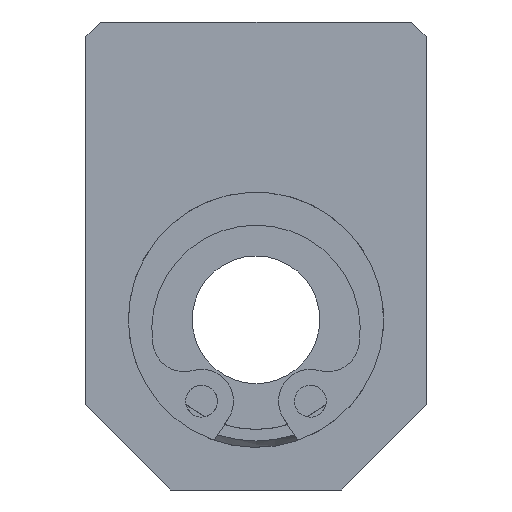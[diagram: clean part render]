
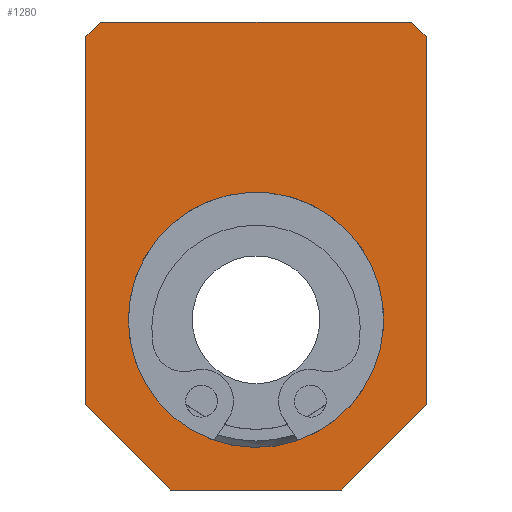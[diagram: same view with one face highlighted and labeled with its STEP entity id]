
A CAD part, left-side view. The second image highlights one B-rep face of the part: STEP entity #1280.
In plain terms, the highlighted planar face has unit normal (-1, 0, 0).
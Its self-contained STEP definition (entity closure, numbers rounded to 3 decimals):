
#1182=CARTESIAN_POINT('',(0.0,-7.3,14.));
#1183=VERTEX_POINT('',#1182);
#1190=CARTESIAN_POINT('',(0.0,-8.,13.3));
#1191=VERTEX_POINT('',#1190);
#1192=CARTESIAN_POINT('',(0.0,-7.3,14.));
#1193=DIRECTION('',(0.0,-0.707,-0.707));
#1194=VECTOR('',#1193,0.99);
#1195=LINE('',#1192,#1194);
#1196=EDGE_CURVE('',#1183,#1191,#1195,.T.);
#1207=CARTESIAN_POINT('',(0.0,0.,3.));
#1208=DIRECTION('',(1.0,0.0,0.0));
#1209=DIRECTION('',(0.0,0.0,-1.0));
#1210=AXIS2_PLACEMENT_3D('',#1207,#1208,#1209);
#1211=PLANE('',#1210);
#1212=ORIENTED_EDGE('',*,*,#1196,.F.);
#1213=CARTESIAN_POINT('',(0.0,7.3,14.));
#1214=VERTEX_POINT('',#1213);
#1215=CARTESIAN_POINT('',(0.0,-7.3,14.));
#1216=DIRECTION('',(0.0,1.0,0.0));
#1217=VECTOR('',#1216,14.6);
#1218=LINE('',#1215,#1217);
#1219=EDGE_CURVE('',#1183,#1214,#1218,.T.);
#1220=ORIENTED_EDGE('',*,*,#1219,.T.);
#1221=CARTESIAN_POINT('',(0.0,8.,13.3));
#1222=VERTEX_POINT('',#1221);
#1223=CARTESIAN_POINT('',(0.0,8.,13.3));
#1224=DIRECTION('',(0.0,-0.707,0.707));
#1225=VECTOR('',#1224,0.99);
#1226=LINE('',#1223,#1225);
#1227=EDGE_CURVE('',#1222,#1214,#1226,.T.);
#1228=ORIENTED_EDGE('',*,*,#1227,.F.);
#1229=CARTESIAN_POINT('',(0.0,8.,-4.));
#1230=VERTEX_POINT('',#1229);
#1231=CARTESIAN_POINT('',(0.0,8.,13.3));
#1232=DIRECTION('',(0.0,0.0,-1.0));
#1233=VECTOR('',#1232,17.3);
#1234=LINE('',#1231,#1233);
#1235=EDGE_CURVE('',#1222,#1230,#1234,.T.);
#1236=ORIENTED_EDGE('',*,*,#1235,.T.);
#1237=CARTESIAN_POINT('',(0.0,4.,-8.));
#1238=VERTEX_POINT('',#1237);
#1239=CARTESIAN_POINT('',(0.0,4.,-8.));
#1240=DIRECTION('',(0.0,0.707,0.707));
#1241=VECTOR('',#1240,5.657);
#1242=LINE('',#1239,#1241);
#1243=EDGE_CURVE('',#1238,#1230,#1242,.T.);
#1244=ORIENTED_EDGE('',*,*,#1243,.F.);
#1245=CARTESIAN_POINT('',(0.0,-4.,-8.));
#1246=VERTEX_POINT('',#1245);
#1247=CARTESIAN_POINT('',(0.0,4.,-8.));
#1248=DIRECTION('',(0.0,-1.0,0.0));
#1249=VECTOR('',#1248,8.);
#1250=LINE('',#1247,#1249);
#1251=EDGE_CURVE('',#1238,#1246,#1250,.T.);
#1252=ORIENTED_EDGE('',*,*,#1251,.T.);
#1253=CARTESIAN_POINT('',(0.0,-8.,-4.));
#1254=VERTEX_POINT('',#1253);
#1255=CARTESIAN_POINT('',(0.0,-8.,-4.));
#1256=DIRECTION('',(0.0,0.707,-0.707));
#1257=VECTOR('',#1256,5.657);
#1258=LINE('',#1255,#1257);
#1259=EDGE_CURVE('',#1254,#1246,#1258,.T.);
#1260=ORIENTED_EDGE('',*,*,#1259,.F.);
#1261=CARTESIAN_POINT('',(0.0,-8.,-4.));
#1262=DIRECTION('',(0.0,0.0,1.0));
#1263=VECTOR('',#1262,17.3);
#1264=LINE('',#1261,#1263);
#1265=EDGE_CURVE('',#1254,#1191,#1264,.T.);
#1266=ORIENTED_EDGE('',*,*,#1265,.T.);
#1267=EDGE_LOOP('',(#1212,#1220,#1228,#1236,#1244,#1252,#1260,#1266));
#1268=FACE_OUTER_BOUND('',#1267,.T.);
#1269=CARTESIAN_POINT('',(0.0,6.,0.));
#1270=VERTEX_POINT('',#1269);
#1271=CARTESIAN_POINT('',(0.0,0.0,0.0));
#1272=DIRECTION('',(1.0,0.0,0.0));
#1273=DIRECTION('',(0.0,-1.0,0.0));
#1274=AXIS2_PLACEMENT_3D('',#1271,#1272,#1273);
#1275=CIRCLE('',#1274,6.);
#1276=EDGE_CURVE('',#1270,#1270,#1275,.T.);
#1277=ORIENTED_EDGE('',*,*,#1276,.T.);
#1278=EDGE_LOOP('',(#1277));
#1279=FACE_BOUND('',#1278,.T.);
#1280=ADVANCED_FACE('',(#1268,#1279),#1211,.F.);
